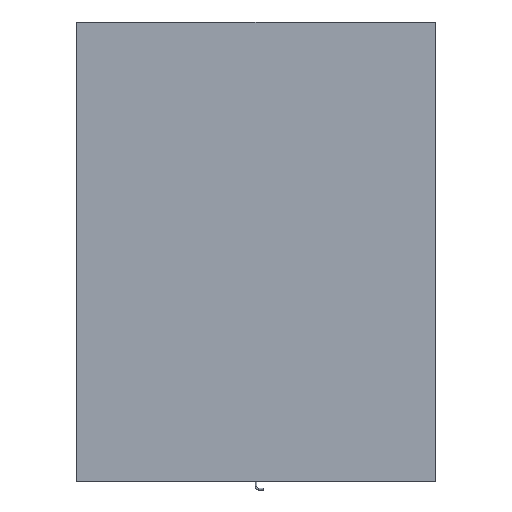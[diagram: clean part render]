
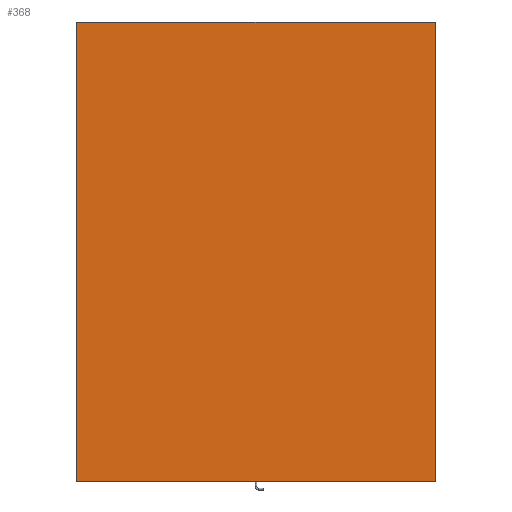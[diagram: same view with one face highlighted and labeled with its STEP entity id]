
A CAD part, top view. The second image highlights one B-rep face of the part: STEP entity #368.
In plain terms, the highlighted planar face has unit normal (0, 0, 1).
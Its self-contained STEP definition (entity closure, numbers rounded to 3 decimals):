
#64 = VECTOR ( 'NONE', #1542, 1000. ) ;
#82 = LINE ( 'NONE', #1568, #404 ) ;
#133 = CARTESIAN_POINT ( 'NONE',  ( -357., 456.5, 41. ) ) ;
#181 = ORIENTED_EDGE ( 'NONE', *, *, #251, .T. ) ;
#187 = AXIS2_PLACEMENT_3D ( 'NONE', #582, #1539, #722 ) ;
#231 = ORIENTED_EDGE ( 'NONE', *, *, #771, .T. ) ;
#251 = EDGE_CURVE ( 'NONE', #577, #1433, #1049, .T. ) ;
#271 = ORIENTED_EDGE ( 'NONE', *, *, #461, .T. ) ;
#280 = DIRECTION ( 'NONE',  ( -0.707, -0.707, 0. ) ) ;
#343 = VECTOR ( 'NONE', #1223, 1000. ) ;
#367 = CARTESIAN_POINT ( 'NONE',  ( -357., 456.5, 41. ) ) ;
#368 = ADVANCED_FACE ( 'NONE', ( #652 ), #1402, .F. ) ;
#370 = CARTESIAN_POINT ( 'NONE',  ( -357., -456.5, 41. ) ) ;
#404 = VECTOR ( 'NONE', #901, 1000. ) ;
#414 = VECTOR ( 'NONE', #820, 1000. ) ;
#417 = CARTESIAN_POINT ( 'NONE',  ( -356.5, -457., 41. ) ) ;
#419 = VERTEX_POINT ( 'NONE', #417 ) ;
#461 = EDGE_CURVE ( 'NONE', #419, #1288, #1046, .T. ) ;
#470 = CARTESIAN_POINT ( 'NONE',  ( 356.5, -457., 41. ) ) ;
#491 = VERTEX_POINT ( 'NONE', #1665 ) ;
#550 = EDGE_CURVE ( 'NONE', #795, #849, #1136, .T. ) ;
#577 = VERTEX_POINT ( 'NONE', #1515 ) ;
#582 = CARTESIAN_POINT ( 'NONE',  ( 0., 0., 41. ) ) ;
#627 = LINE ( 'NONE', #1329, #1484 ) ;
#628 = ORIENTED_EDGE ( 'NONE', *, *, #550, .T. ) ;
#652 = FACE_OUTER_BOUND ( 'NONE', #1183, .T. ) ;
#670 = LINE ( 'NONE', #1526, #1121 ) ;
#722 = DIRECTION ( 'NONE',  ( -1., 0., 0. ) ) ;
#726 = ORIENTED_EDGE ( 'NONE', *, *, #1756, .T. ) ;
#741 = CARTESIAN_POINT ( 'NONE',  ( 357., 456.5, 41. ) ) ;
#771 = EDGE_CURVE ( 'NONE', #834, #419, #1723, .T. ) ;
#795 = VERTEX_POINT ( 'NONE', #741 ) ;
#820 = DIRECTION ( 'NONE',  ( -0.707, 0.707, 0. ) ) ;
#834 = VERTEX_POINT ( 'NONE', #370 ) ;
#849 = VERTEX_POINT ( 'NONE', #1729 ) ;
#873 = VECTOR ( 'NONE', #1248, 1000. ) ;
#901 = DIRECTION ( 'NONE',  ( 0.707, 0.707, 0. ) ) ;
#937 = CARTESIAN_POINT ( 'NONE',  ( 356.5, 457., 41. ) ) ;
#972 = CARTESIAN_POINT ( 'NONE',  ( -357., -457., 41. ) ) ;
#1046 = LINE ( 'NONE', #972, #873 ) ;
#1049 = LINE ( 'NONE', #133, #1707 ) ;
#1099 = DIRECTION ( 'NONE',  ( 0., 1., 0. ) ) ;
#1121 = VECTOR ( 'NONE', #1099, 1000. ) ;
#1136 = LINE ( 'NONE', #937, #414 ) ;
#1174 = EDGE_CURVE ( 'NONE', #849, #577, #627, .T. ) ;
#1183 = EDGE_LOOP ( 'NONE', ( #726, #231, #271, #1290, #1778, #628, #1683, #181 ) ) ;
#1223 = DIRECTION ( 'NONE',  ( 0.707, -0.707, 0. ) ) ;
#1248 = DIRECTION ( 'NONE',  ( 1., 0., 0. ) ) ;
#1261 = LINE ( 'NONE', #1701, #64 ) ;
#1288 = VERTEX_POINT ( 'NONE', #470 ) ;
#1290 = ORIENTED_EDGE ( 'NONE', *, *, #1364, .T. ) ;
#1329 = CARTESIAN_POINT ( 'NONE',  ( -357., 457., 41. ) ) ;
#1364 = EDGE_CURVE ( 'NONE', #1288, #491, #82, .T. ) ;
#1402 = PLANE ( 'NONE',  #187 ) ;
#1433 = VERTEX_POINT ( 'NONE', #367 ) ;
#1484 = VECTOR ( 'NONE', #1611, 1000. ) ;
#1502 = CARTESIAN_POINT ( 'NONE',  ( -356.5, -457., 41. ) ) ;
#1515 = CARTESIAN_POINT ( 'NONE',  ( -356.5, 457., 41. ) ) ;
#1526 = CARTESIAN_POINT ( 'NONE',  ( 357., -457., 41. ) ) ;
#1539 = DIRECTION ( 'NONE',  ( 0., 0., -1. ) ) ;
#1542 = DIRECTION ( 'NONE',  ( 0., -1., 0. ) ) ;
#1568 = CARTESIAN_POINT ( 'NONE',  ( 357., -456.5, 41. ) ) ;
#1611 = DIRECTION ( 'NONE',  ( -1., 0., 0. ) ) ;
#1637 = EDGE_CURVE ( 'NONE', #491, #795, #670, .T. ) ;
#1665 = CARTESIAN_POINT ( 'NONE',  ( 357., -456.5, 41. ) ) ;
#1683 = ORIENTED_EDGE ( 'NONE', *, *, #1174, .T. ) ;
#1701 = CARTESIAN_POINT ( 'NONE',  ( -357., -457., 41. ) ) ;
#1707 = VECTOR ( 'NONE', #280, 1000. ) ;
#1723 = LINE ( 'NONE', #1502, #343 ) ;
#1729 = CARTESIAN_POINT ( 'NONE',  ( 356.5, 457., 41. ) ) ;
#1756 = EDGE_CURVE ( 'NONE', #1433, #834, #1261, .T. ) ;
#1778 = ORIENTED_EDGE ( 'NONE', *, *, #1637, .T. ) ;
